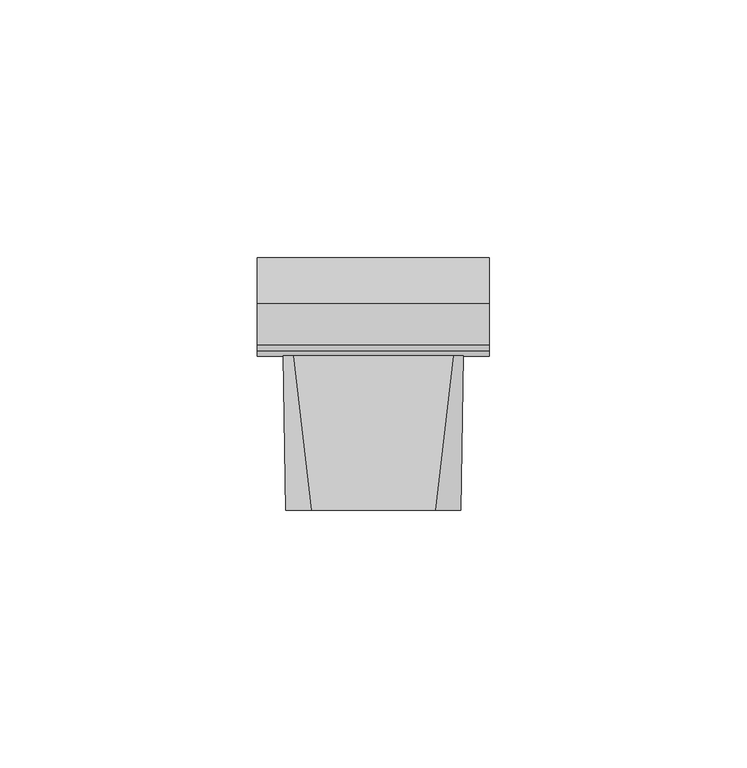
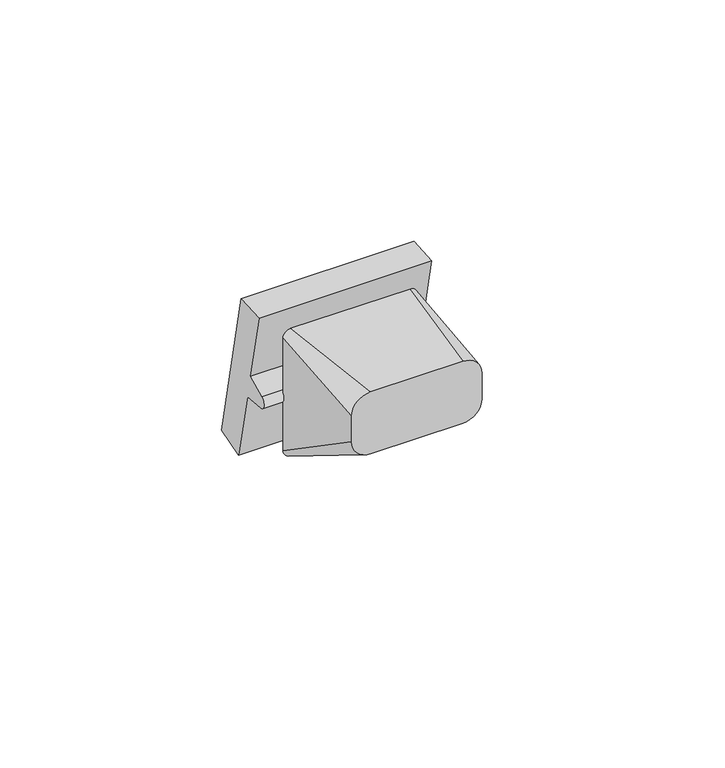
"""IFC4 building model written with IfcOpenShell, lengths in millimetres: proxy geometry, IEK_Skandy_Механизм выключателя : В1_SK-V01B."""

import ifcopenshell
import ifcopenshell.guid

model = None  # the IFC model being written
_history = None  # IfcOwnerHistory: only IFC2X3 demands one
_inside = {}  # id of a spatial element -> (the spatial element, [elements in it])
_under = {}  # id of a project, library or spatial element -> (it, [spatial elements below it])
_declared = {}  # id of a project -> (the project, [libraries it declares])
_typed = {}  # id of a type object -> (the type object, [elements of that type])
_made_of = {}  # id of a material, layer set ... -> (it, [elements and type objects made of it])


def new_model(schema):
    """Start an empty IFC model of exactly this schema.

    Asked for "IFC4X3", IfcOpenShell would pick the latest addendum, in which some entities
    have other attributes; the version numbers below select the first issue.
    IFC2X3 requires an IfcOwnerHistory on every rooted entity: one is made here for all.
    """
    global model, _history
    if schema == "IFC4X3":
        model = ifcopenshell.file(schema_version=(4, 3, 0, 0))
    else:
        model = ifcopenshell.file(schema=schema)
    _inside.clear()
    _under.clear()
    _declared.clear()
    _typed.clear()
    _made_of.clear()
    _history = None
    if model.schema == "IFC2X3":
        org = make("IfcOrganization", Name="unknown")
        user = make(
            "IfcPersonAndOrganization",
            ThePerson=make("IfcPerson", FamilyName="unknown"),
            TheOrganization=org,
        )
        app = make(
            "IfcApplication",
            ApplicationDeveloper=org,
            Version="unknown",
            ApplicationFullName="unknown",
            ApplicationIdentifier="unknown",
        )
        _history = make(
            "IfcOwnerHistory",
            OwningUser=user,
            OwningApplication=app,
            ChangeAction="ADDED",
            CreationDate=0,
        )
    return model


def make(cls, **values):
    """One entity of the class cls with the attributes given. An attribute that is None is left unset."""
    return model.create_entity(
        cls, **{name: value for name, value in values.items() if value is not None}
    )


def rooted(cls, **values):
    """An entity with a GlobalId (a new one), such as an element, a storey or a relation."""
    return make(cls, GlobalId=ifcopenshell.guid.new(), OwnerHistory=_history, **values)


def si_unit(unit_type, name, prefix=None):
    """IfcSIUnit, for example si_unit("LENGTHUNIT", "METRE", prefix="MILLI")."""
    return make("IfcSIUnit", UnitType=unit_type, Prefix=prefix, Name=name)


def assignment(units):
    """IfcUnitAssignment: the units of a project."""
    return None if units is None else make("IfcUnitAssignment", Units=units)


def point(xyz):
    """IfcCartesianPoint."""
    return None if xyz is None else make("IfcCartesianPoint", Coordinates=xyz)


def direction(xyz):
    """IfcDirection."""
    return None if xyz is None else make("IfcDirection", DirectionRatios=xyz)


def frame(location, z_axis=None, x_axis=None):
    """IfcAxis2Placement3D, a coordinate frame: its origin and axes. An axis left out is left unset."""
    return make(
        "IfcAxis2Placement3D",
        Location=point(location),
        Axis=direction(z_axis),
        RefDirection=direction(x_axis),
    )


def frame_2d(location, x_axis=None):
    """IfcAxis2Placement2D, a coordinate frame in the plane: its origin and x axis."""
    return make(
        "IfcAxis2Placement2D", Location=point(location), RefDirection=direction(x_axis)
    )


def origin():
    """The frame at (0, 0, 0) with its axes left unset."""
    return frame((0.0, 0.0, 0.0))


def place(relative_to, where):
    """IfcLocalPlacement: puts the frame where relative to a parent placement (None: the world)."""
    return make(
        "IfcLocalPlacement", PlacementRelTo=relative_to, RelativePlacement=where
    )


def context(
    kind, dimensions, precision=None, world=None, true_north=None, identifier=None
):
    """IfcGeometricRepresentationContext, for example the 3D "Model" context."""
    return make(
        "IfcGeometricRepresentationContext",
        ContextIdentifier=identifier,
        ContextType=kind,
        CoordinateSpaceDimension=dimensions,
        Precision=precision,
        WorldCoordinateSystem=world,
        TrueNorth=true_north,
    )


def project(units=None, contexts=None):
    """IfcProject with its units and contexts."""
    return rooted(
        "IfcProject",
        Name="project",
        RepresentationContexts=contexts,
        UnitsInContext=assignment(units),
    )


def spatial(cls, under=None, at=None, **own):
    """A site, building, storey or space (cls), placed at a placement, below another one or the project."""
    s = rooted(cls, ObjectPlacement=at, **own)
    if under is not None:
        _under.setdefault(under.id(), (under, []))[1].append(s)
    return s


def polyline(points):
    """IfcPolyline through the points."""
    return make("IfcPolyline", Points=[point(p) for p in points])


def circle_curve(where, radius):
    """IfcCircle in the frame where."""
    return make("IfcCircle", Position=where, Radius=radius)


def trimmed(basis, trim1, trim2, sense, master):
    """IfcTrimmedCurve: the piece of a basis curve between two trims."""
    return make(
        "IfcTrimmedCurve",
        BasisCurve=basis,
        Trim1=trim1,
        Trim2=trim2,
        SenseAgreement=sense,
        MasterRepresentation=master,
    )


def segment(curve, same_sense, transition):
    """IfcCompositeCurveSegment."""
    return make(
        "IfcCompositeCurveSegment",
        Transition=transition,
        SameSense=same_sense,
        ParentCurve=curve,
    )


def composite_curve(segments, self_intersect=None):
    """IfcCompositeCurve: segments joined end to end."""
    return make("IfcCompositeCurve", Segments=segments, SelfIntersect=self_intersect)


def outline(outer, holes=None, kind="AREA"):
    """IfcArbitraryClosedProfileDef: a profile drawn as a closed curve; with holes, ...WithVoids."""
    if holes is None:
        return make("IfcArbitraryClosedProfileDef", ProfileType=kind, OuterCurve=outer)
    return make(
        "IfcArbitraryProfileDefWithVoids",
        ProfileType=kind,
        OuterCurve=outer,
        InnerCurves=holes,
    )


def extrude(swept, where, along, depth):
    """IfcExtrudedAreaSolid: the profile swept, set in the frame where, extruded along a direction by depth."""
    return make(
        "IfcExtrudedAreaSolid",
        SweptArea=swept,
        Position=where,
        ExtrudedDirection=direction(along),
        Depth=depth,
    )


def shape(context_of_items, identifier, shape_type, items):
    """IfcShapeRepresentation: the items that make up one representation, for example the "Body"."""
    return make(
        "IfcShapeRepresentation",
        ContextOfItems=context_of_items,
        RepresentationIdentifier=identifier,
        RepresentationType=shape_type,
        Items=items,
    )


def source(mapping_origin, context_of_items, identifier, shape_type, items):
    """IfcRepresentationMap: a shape defined once, which mapped items show again and again."""
    return make(
        "IfcRepresentationMap",
        MappingOrigin=mapping_origin,
        MappedRepresentation=shape(context_of_items, identifier, shape_type, items),
    )


def transform(
    local_origin,
    x_axis=None,
    y_axis=None,
    z_axis=None,
    scale=None,
    scale2=None,
    scale3=None,
    uniform=True,
):
    """IfcCartesianTransformationOperator3D, or its non-uniform kind. x_axis, y_axis, z_axis: its Axis1, 2, 3."""
    if uniform:
        return make(
            "IfcCartesianTransformationOperator3D",
            Axis1=direction(x_axis),
            Axis2=direction(y_axis),
            LocalOrigin=point(local_origin),
            Scale=scale,
            Axis3=direction(z_axis),
        )
    return make(
        "IfcCartesianTransformationOperator3DnonUniform",
        Axis1=direction(x_axis),
        Axis2=direction(y_axis),
        LocalOrigin=point(local_origin),
        Scale=scale,
        Axis3=direction(z_axis),
        Scale2=scale2,
        Scale3=scale3,
    )


def mapped(mapping_source, mapping_target):
    """IfcMappedItem: shows the shape of a source again, moved by a transform."""
    return make(
        "IfcMappedItem", MappingSource=mapping_source, MappingTarget=mapping_target
    )


def made_of(thing, what):
    """Note that an element or type object is made of a material, layer set ...; save() writes the relation."""
    if what is not None:
        _made_of.setdefault(what.id(), (what, []))[1].append(thing)
    return thing


def element(
    cls,
    number,
    at=None,
    inside=None,
    cuts=None,
    type_object=None,
    material=None,
    context=None,
    identifier="Body",
    shape_type=None,
    held_by="IfcProductDefinitionShape",
    body=None,
    shapes=None,
    **own,
):
    """One element of the class cls, such as IfcWall. Its Tag is "e" and its number.

    at: its placement. inside: the storey or other place that contains it. cuts: it is an
    opening in that element (IfcRelVoidsElement). A single representation is given by context,
    identifier, shape_type and body (its items); several are given by shapes. held_by: the class
    of the entity that holds the representations. save() writes the other relations.
    """
    e = rooted(cls, Tag="e%d" % number, ObjectPlacement=at, **own)
    if body is not None:
        shapes = [shape(context, identifier, shape_type, body)]
    if shapes is not None:
        e.Representation = make(held_by, Representations=shapes)
    if inside is not None:
        _inside.setdefault(inside.id(), (inside, []))[1].append(e)
    if cuts is not None:
        rooted(
            "IfcRelVoidsElement", RelatingBuildingElement=cuts, RelatedOpeningElement=e
        )
    if type_object is not None:
        _typed.setdefault(type_object.id(), (type_object, []))[1].append(e)
    return made_of(e, material)


def aggregate(whole, parts):
    """IfcRelAggregates: a whole, such as a stair, and the parts it consists of."""
    return rooted("IfcRelAggregates", RelatingObject=whole, RelatedObjects=parts)


def save(model, path):
    """Write the relations noted so far, then the file.

    IfcRelAggregates (storeys below a building ...), IfcRelContainedInSpatialStructure (elements
    in a storey), IfcRelDefinesByType, IfcRelAssociatesMaterial and IfcRelDeclares: one each for
    every whole, place, type object, material and project.
    """
    for whole, parts in _under.values():
        aggregate(whole, parts)
    for where, things in _inside.values():
        rooted(
            "IfcRelContainedInSpatialStructure",
            RelatedElements=things,
            RelatingStructure=where,
        )
    for kind, things in _typed.values():
        rooted("IfcRelDefinesByType", RelatedObjects=things, RelatingType=kind)
    for what, things in _made_of.values():
        rooted("IfcRelAssociatesMaterial", RelatedObjects=things, RelatingMaterial=what)
    for by, libraries in _declared.values():
        rooted("IfcRelDeclares", RelatingContext=by, RelatedDefinitions=libraries)
    model.write(path)


def plane_surface(at):
    """IfcPlane: the flat surface through the origin of the frame at, square to its z axis."""
    return make("IfcPlane", Position=at)


def spline_surface(u_degree, v_degree, points, u_multiplicities, v_multiplicities, u_knots, v_knots, weights=None):
    """IfcBSplineSurfaceWithKnots; with weights, IfcRationalBSplineSurfaceWithKnots. points: one row for each step in u."""
    own = dict(
        UDegree=u_degree,
        VDegree=v_degree,
        ControlPointsList=[[point(p) for p in row] for row in points],
        SurfaceForm="UNSPECIFIED",
        UClosed=False,
        VClosed=False,
        SelfIntersect=False,
        UMultiplicities=u_multiplicities,
        VMultiplicities=v_multiplicities,
        UKnots=u_knots,
        VKnots=v_knots,
        KnotSpec="UNSPECIFIED",
    )
    if weights is None:
        return make("IfcBSplineSurfaceWithKnots", **own)
    return make("IfcRationalBSplineSurfaceWithKnots", WeightsData=weights, **own)


def advanced_brep(points, edges, surfaces, faces):
    """IfcAdvancedBrep: a solid bounded by faces that lie on surfaces and meet in shared edges.

    An edge is (start, end): straight between two places in points (the first is 0);
    or (start, end, curve); or (start, end, curve, False) where it runs against its curve.
    A face is (place in surfaces, loops), or (place, loops, False) where it looks against
    its surface's normal. A loop lists edges by number (the first is 1), with a minus sign
    where the edge is run from its end to its start. The first loop is the outer one.
    """
    corners = [point(p) for p in points]
    vertices = [make("IfcVertexPoint", VertexGeometry=c) for c in corners]
    made = []
    for start, end, *more in edges:
        made.append(
            make(
                "IfcEdgeCurve",
                EdgeStart=vertices[start],
                EdgeEnd=vertices[end],
                EdgeGeometry=more[0] if more else make("IfcPolyline", Points=[corners[start], corners[end]]),
                SameSense=more[1] if len(more) > 1 else True,
            )
        )
    hull = []
    for where, loops, *sense in faces:
        bounds = []
        for j, loop in enumerate(loops):
            ring = [make("IfcOrientedEdge", EdgeElement=made[abs(k) - 1], Orientation=k > 0) for k in loop]
            bounds.append(
                make(
                    "IfcFaceOuterBound" if j == 0 else "IfcFaceBound",
                    Bound=make("IfcEdgeLoop", EdgeList=ring),
                    Orientation=True,
                )
            )
        hull.append(make("IfcAdvancedFace", Bounds=bounds, FaceSurface=surfaces[where], SameSense=sense[0] if sense else True))
    return make("IfcAdvancedBrep", Outer=make("IfcClosedShell", CfsFaces=hull))


def electrical_fixtures_0646ccb8(model_context):
    return source(origin(), model_context, "Body", "SolidModel", [
        extrude(outline(composite_curve([segment(polyline([(19.1247035, -19.6237652), (11.4236286, -21.8320129), (7.3756597, -3.3748404), (1.5972872, -2.8692983)]), True, "CONTINUOUS"), segment(trimmed(circle_curve(frame_2d((1.7530049, -1.0894363)), 1.7866608), [point((1.5972872, -2.8692983))], [point((0.9979294, 0.5298284))], False, "CARTESIAN"), True, "CONTINUOUS"), segment(polyline([(0.9979294, 0.5298284), (6.2549179, 2.9812023), (2.206949, 21.4383748), (10.1988574, 21.9972235), (19.1247035, -19.6237652)]), True, "CONTINUOUS")], self_intersect=False)), frame((-22.5, 0.0, 0.0), z_axis=(1.0, 0.0, 0.0), x_axis=(0.0, 1.0, 0.0)), (0.0, 0.0, 1.0), 45.0),
        advanced_brep(
        [(-12.0, -30.0, 17.0), (-17.0, -30.0, 12.0), (-17.0, -30.0, 5.0), (-12.0, -30.0, 0.0), (12.0, -30.0, 0.0), (17.0, -30.0, 5.0), (17.0, -30.0, 12.0), (12.0, -30.0, 17.0), (-15.5, 0.0, 17.5), (15.5, 0.0, 17.5), (17.5, 0.0, 15.5), (17.5, 0.0, -15.5), (15.5, 0.0, -17.5), (-15.5, 0.0, -17.5), (-17.5, 0.0, -15.5), (-17.5, 0.0, 15.5)],
        [
            (0, 1, circle_curve(frame((-12.0, -30.0, 12.0), z_axis=(0.0, -1.0, 0.0), x_axis=(1.0, 0.0, 0.0)), 5.0)),
            (1, 2),
            (2, 3, circle_curve(frame((-12.0, -30.0, 5.0), z_axis=(0.0, -1.0, 0.0), x_axis=(1.0, 0.0, 0.0)), 5.0)),
            (3, 4),
            (4, 5, circle_curve(frame((12.0, -30.0, 5.0), z_axis=(0.0, -1.0, 0.0), x_axis=(1.0, 0.0, 0.0)), 5.0)),
            (5, 6),
            (6, 7, circle_curve(frame((12.0, -30.0, 12.0), z_axis=(0.0, -1.0, 0.0), x_axis=(1.0, 0.0, 0.0)), 5.0)),
            (7, 0),
            (8, 9),
            (9, 10, circle_curve(frame((15.5, 0.0, 15.5), z_axis=(0.0, 1.0, 0.0), x_axis=(1.0, 0.0, 0.0)), 2.0)),
            (10, 11),
            (11, 12, circle_curve(frame((15.5, 0.0, -15.5), z_axis=(0.0, 1.0, 0.0), x_axis=(1.0, 0.0, 0.0)), 2.0)),
            (12, 13),
            (13, 14, circle_curve(frame((-15.5, 0.0, -15.5), z_axis=(0.0, 1.0, 0.0), x_axis=(1.0, 0.0, 0.0)), 2.0)),
            (14, 15),
            (15, 8, circle_curve(frame((-15.5, 0.0, 15.5), z_axis=(0.0, 1.0, 0.0), x_axis=(1.0, 0.0, 0.0)), 2.0)),
            (8, 0),
            (7, 9),
            (6, 10),
            (5, 11),
            (4, 12),
            (3, 13),
            (2, 14),
            (1, 15),
        ],
        [
            plane_surface(frame((0.0, -30.0, 8.5), z_axis=(0.0, -1.0, 0.0), x_axis=(-1.0, 0.0, 0.0))),
            plane_surface(frame((0.0, 0.0, 0.0), z_axis=(0.0, 1.0, 0.0), x_axis=(-1.0, 0.0, 0.0))),
            plane_surface(frame((0.0, 0.0, 17.5), z_axis=(0.0, -0.016664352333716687, 0.9998611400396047), x_axis=(-1.0, 0.0, 0.0))),
            spline_surface(2, 1, [[(17.5, 0.0, 15.5), (17.0, -30.0, 12.0)], [(17.5, 0.0, 17.5), (17.0, -30.0, 17.0)], [(15.5, 0.0, 17.5), (12.0, -30.0, 17.0)]], [3, 3], [2, 2], [0.0, 1.0], [0.0, 1.0], weights=[[1.0, 1.0], [0.7071067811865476, 0.7071067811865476], [1.0, 1.0]]),
            plane_surface(frame((17.5, 0.0, 0.0), z_axis=(0.9998611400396, -0.016664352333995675, 0.0), x_axis=(0.0, 0.0, 1.0))),
            spline_surface(2, 1, [[(15.5, 0.0, -17.5), (12.0, -30.0, 0.0)], [(17.5, 0.0, -17.5), (17.0, -30.0, 0.0)], [(17.5, 0.0, -15.5), (17.0, -30.0, 5.0)]], [3, 3], [2, 2], [0.0, 1.0], [0.0, 1.0], weights=[[1.0, 1.0], [0.7071067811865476, 0.7071067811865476], [1.0, 1.0]]),
            plane_surface(frame((0.0, 0.0, -17.5), z_axis=(0.0, -0.5038710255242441, -0.8637789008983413), x_axis=(1.0, 0.0, 0.0))),
            spline_surface(2, 1, [[(-17.5, 0.0, -15.5), (-17.0, -30.0, 5.0)], [(-17.5, 0.0, -17.5), (-17.0, -30.0, 0.0)], [(-15.5, 0.0, -17.5), (-12.0, -30.0, 0.0)]], [3, 3], [2, 2], [0.0, 1.0], [0.0, 1.0], weights=[[1.0, 1.0], [0.7071067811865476, 0.7071067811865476], [1.0, 1.0]]),
            plane_surface(frame((-17.5, 0.0, 0.0), z_axis=(-0.9998611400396, -0.01666435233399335, 0.0), x_axis=(0.0, 0.0, -1.0))),
            spline_surface(2, 1, [[(-15.5, 0.0, 17.5), (-12.0, -30.0, 17.0)], [(-17.5, 0.0, 17.5), (-17.0, -30.0, 17.0)], [(-17.5, 0.0, 15.5), (-17.0, -30.0, 12.0)]], [3, 3], [2, 2], [0.0, 1.0], [0.0, 1.0], weights=[[1.0, 1.0], [0.7071067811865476, 0.7071067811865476], [1.0, 1.0]]),
        ],
        [
            (0, [[1, 2, 3, 4, 5, 6, 7, 8]]),
            (1, [[9, 10, 11, 12, 13, 14, 15, 16]]),
            (2, [[-9, 17, -8, 18]]),
            (3, [[-10, -18, -7, 19]]),
            (4, [[-11, -19, -6, 20]]),
            (5, [[-12, -20, -5, 21]]),
            (6, [[-13, -21, -4, 22]]),
            (7, [[-14, -22, -3, 23]]),
            (8, [[-15, -23, -2, 24]]),
            (9, [[-16, -24, -1, -17]]),
        ],
    ),
    ])


if __name__ == "__main__":
    model = new_model("IFC4")
    model_context = context("Model", 3, world=origin())
    ifc_project = project(units=[si_unit("LENGTHUNIT", "METRE", prefix="MILLI")], contexts=[model_context])
    site = spatial("IfcSite", under=ifc_project)
    building = spatial("IfcBuilding", under=site)
    placement = place(None, origin())
    electrical_fixtures_shape = electrical_fixtures_0646ccb8(model_context)
    element("IfcBuildingElementProxy", 1, Name="IEK_Skandy_Механизм выключателя : В1_SK-V01B", ObjectType="IEK_Skandy_Механизм выключателя : В1_SK-V01B", at=placement, inside=building, context=model_context, shape_type="MappedRepresentation", body=[
        mapped(electrical_fixtures_shape, transform((0.0, 0.0, 0.0), x_axis=(1.0, 0.0, 0.0), y_axis=(0.0, 1.0, 0.0), z_axis=(0.0, 0.0, 1.0))),
    ])
    save(model, "model.ifc")
